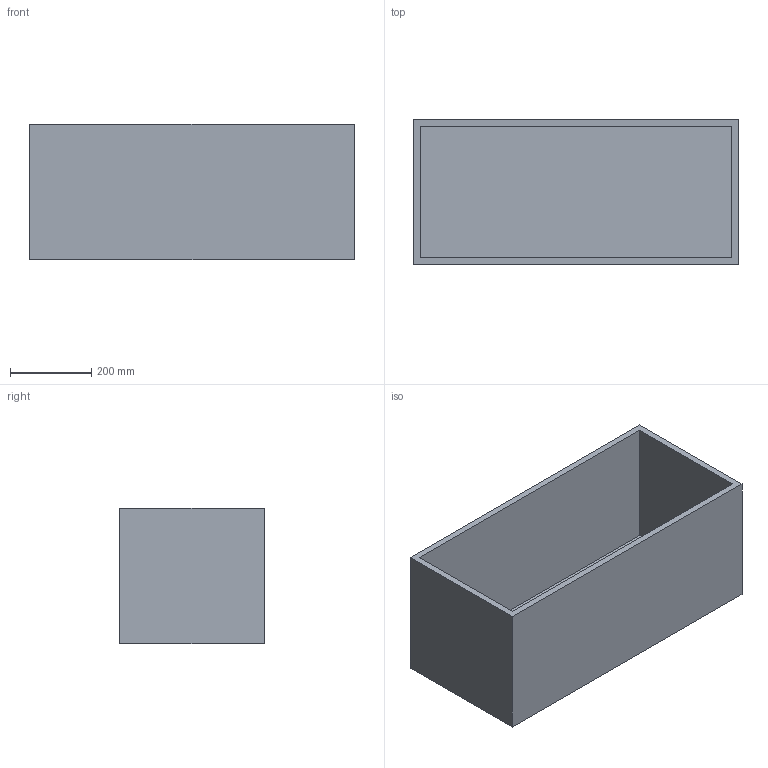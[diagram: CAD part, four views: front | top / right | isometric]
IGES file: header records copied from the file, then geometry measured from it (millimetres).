
Start section: SolidWorks IGES file using analytic representation for surfaces
Global section: file name: C:\Users\hcaixa\Documents\Gabinete Tecnico\72_produtos cliente\Timsteel\Estantes\Estantes  Q16\Q16 versão catalogo\Assemblys\IGS\Novas Peças\Armario 800x330 Aberto.IGS; native system: SolidWorks 2014; preprocessor: SolidWorks 2014; author: hcaixa; date: 190704.114701; units: millimetre
Bounding box: 800 x 356 x 333 mm (x, y, z)
Surface area: 2031824 mm2 (no closed solid volume)
Topology: 0 solids, 0 shells, 11 faces, 48 edges, 48 vertices
Faces by surface type: bspline 11
